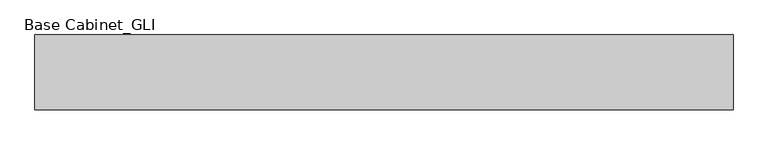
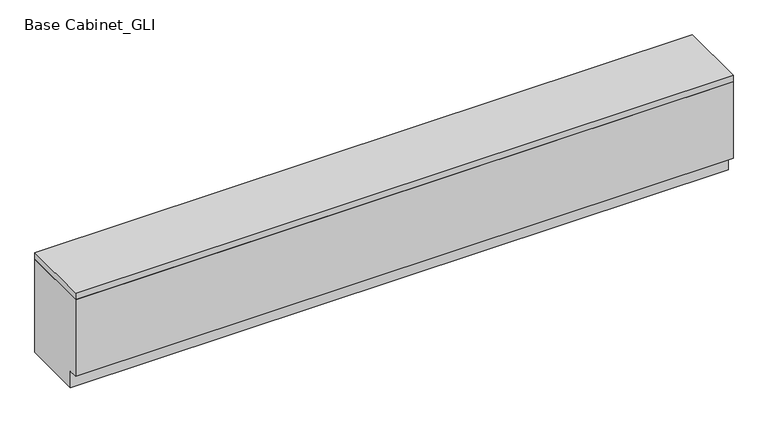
"""IFC4 building model written with IfcOpenShell, lengths in millimetres: proxy geometry, Base Cabinet_GLI : 900h x400d."""

import ifcopenshell
import ifcopenshell.guid

model = None  # the IFC model being written
_history = None  # IfcOwnerHistory: only IFC2X3 demands one
_inside = {}  # id of a spatial element -> (the spatial element, [elements in it])
_under = {}  # id of a project, library or spatial element -> (it, [spatial elements below it])
_declared = {}  # id of a project -> (the project, [libraries it declares])
_typed = {}  # id of a type object -> (the type object, [elements of that type])
_made_of = {}  # id of a material, layer set ... -> (it, [elements and type objects made of it])


def new_model(schema):
    """Start an empty IFC model of exactly this schema.

    Asked for "IFC4X3", IfcOpenShell would pick the latest addendum, in which some entities
    have other attributes; the version numbers below select the first issue.
    IFC2X3 requires an IfcOwnerHistory on every rooted entity: one is made here for all.
    """
    global model, _history
    if schema == "IFC4X3":
        model = ifcopenshell.file(schema_version=(4, 3, 0, 0))
    else:
        model = ifcopenshell.file(schema=schema)
    _inside.clear()
    _under.clear()
    _declared.clear()
    _typed.clear()
    _made_of.clear()
    _history = None
    if model.schema == "IFC2X3":
        org = make("IfcOrganization", Name="unknown")
        user = make(
            "IfcPersonAndOrganization",
            ThePerson=make("IfcPerson", FamilyName="unknown"),
            TheOrganization=org,
        )
        app = make(
            "IfcApplication",
            ApplicationDeveloper=org,
            Version="unknown",
            ApplicationFullName="unknown",
            ApplicationIdentifier="unknown",
        )
        _history = make(
            "IfcOwnerHistory",
            OwningUser=user,
            OwningApplication=app,
            ChangeAction="ADDED",
            CreationDate=0,
        )
    return model


def make(cls, **values):
    """One entity of the class cls with the attributes given. An attribute that is None is left unset."""
    return model.create_entity(
        cls, **{name: value for name, value in values.items() if value is not None}
    )


def rooted(cls, **values):
    """An entity with a GlobalId (a new one), such as an element, a storey or a relation."""
    return make(cls, GlobalId=ifcopenshell.guid.new(), OwnerHistory=_history, **values)


def si_unit(unit_type, name, prefix=None):
    """IfcSIUnit, for example si_unit("LENGTHUNIT", "METRE", prefix="MILLI")."""
    return make("IfcSIUnit", UnitType=unit_type, Prefix=prefix, Name=name)


def assignment(units):
    """IfcUnitAssignment: the units of a project."""
    return None if units is None else make("IfcUnitAssignment", Units=units)


def point(xyz):
    """IfcCartesianPoint."""
    return None if xyz is None else make("IfcCartesianPoint", Coordinates=xyz)


def direction(xyz):
    """IfcDirection."""
    return None if xyz is None else make("IfcDirection", DirectionRatios=xyz)


def frame(location, z_axis=None, x_axis=None):
    """IfcAxis2Placement3D, a coordinate frame: its origin and axes. An axis left out is left unset."""
    return make(
        "IfcAxis2Placement3D",
        Location=point(location),
        Axis=direction(z_axis),
        RefDirection=direction(x_axis),
    )


def origin():
    """The frame at (0, 0, 0) with its axes left unset."""
    return frame((0.0, 0.0, 0.0))


def place(relative_to, where):
    """IfcLocalPlacement: puts the frame where relative to a parent placement (None: the world)."""
    return make(
        "IfcLocalPlacement", PlacementRelTo=relative_to, RelativePlacement=where
    )


def context(
    kind, dimensions, precision=None, world=None, true_north=None, identifier=None
):
    """IfcGeometricRepresentationContext, for example the 3D "Model" context."""
    return make(
        "IfcGeometricRepresentationContext",
        ContextIdentifier=identifier,
        ContextType=kind,
        CoordinateSpaceDimension=dimensions,
        Precision=precision,
        WorldCoordinateSystem=world,
        TrueNorth=true_north,
    )


def project(units=None, contexts=None):
    """IfcProject with its units and contexts."""
    return rooted(
        "IfcProject",
        Name="project",
        RepresentationContexts=contexts,
        UnitsInContext=assignment(units),
    )


def spatial(cls, under=None, at=None, **own):
    """A site, building, storey or space (cls), placed at a placement, below another one or the project."""
    s = rooted(cls, ObjectPlacement=at, **own)
    if under is not None:
        _under.setdefault(under.id(), (under, []))[1].append(s)
    return s


def polyline(points):
    """IfcPolyline through the points."""
    return make("IfcPolyline", Points=[point(p) for p in points])


def outline(outer, holes=None, kind="AREA"):
    """IfcArbitraryClosedProfileDef: a profile drawn as a closed curve; with holes, ...WithVoids."""
    if holes is None:
        return make("IfcArbitraryClosedProfileDef", ProfileType=kind, OuterCurve=outer)
    return make(
        "IfcArbitraryProfileDefWithVoids",
        ProfileType=kind,
        OuterCurve=outer,
        InnerCurves=holes,
    )


def extrude(swept, where, along, depth):
    """IfcExtrudedAreaSolid: the profile swept, set in the frame where, extruded along a direction by depth."""
    return make(
        "IfcExtrudedAreaSolid",
        SweptArea=swept,
        Position=where,
        ExtrudedDirection=direction(along),
        Depth=depth,
    )


def shape(context_of_items, identifier, shape_type, items):
    """IfcShapeRepresentation: the items that make up one representation, for example the "Body"."""
    return make(
        "IfcShapeRepresentation",
        ContextOfItems=context_of_items,
        RepresentationIdentifier=identifier,
        RepresentationType=shape_type,
        Items=items,
    )


def source(mapping_origin, context_of_items, identifier, shape_type, items):
    """IfcRepresentationMap: a shape defined once, which mapped items show again and again."""
    return make(
        "IfcRepresentationMap",
        MappingOrigin=mapping_origin,
        MappedRepresentation=shape(context_of_items, identifier, shape_type, items),
    )


def transform(
    local_origin,
    x_axis=None,
    y_axis=None,
    z_axis=None,
    scale=None,
    scale2=None,
    scale3=None,
    uniform=True,
):
    """IfcCartesianTransformationOperator3D, or its non-uniform kind. x_axis, y_axis, z_axis: its Axis1, 2, 3."""
    if uniform:
        return make(
            "IfcCartesianTransformationOperator3D",
            Axis1=direction(x_axis),
            Axis2=direction(y_axis),
            LocalOrigin=point(local_origin),
            Scale=scale,
            Axis3=direction(z_axis),
        )
    return make(
        "IfcCartesianTransformationOperator3DnonUniform",
        Axis1=direction(x_axis),
        Axis2=direction(y_axis),
        LocalOrigin=point(local_origin),
        Scale=scale,
        Axis3=direction(z_axis),
        Scale2=scale2,
        Scale3=scale3,
    )


def mapped(mapping_source, mapping_target):
    """IfcMappedItem: shows the shape of a source again, moved by a transform."""
    return make(
        "IfcMappedItem", MappingSource=mapping_source, MappingTarget=mapping_target
    )


def made_of(thing, what):
    """Note that an element or type object is made of a material, layer set ...; save() writes the relation."""
    if what is not None:
        _made_of.setdefault(what.id(), (what, []))[1].append(thing)
    return thing


def element(
    cls,
    number,
    at=None,
    inside=None,
    cuts=None,
    type_object=None,
    material=None,
    context=None,
    identifier="Body",
    shape_type=None,
    held_by="IfcProductDefinitionShape",
    body=None,
    shapes=None,
    **own,
):
    """One element of the class cls, such as IfcWall. Its Tag is "e" and its number.

    at: its placement. inside: the storey or other place that contains it. cuts: it is an
    opening in that element (IfcRelVoidsElement). A single representation is given by context,
    identifier, shape_type and body (its items); several are given by shapes. held_by: the class
    of the entity that holds the representations. save() writes the other relations.
    """
    e = rooted(cls, Tag="e%d" % number, ObjectPlacement=at, **own)
    if body is not None:
        shapes = [shape(context, identifier, shape_type, body)]
    if shapes is not None:
        e.Representation = make(held_by, Representations=shapes)
    if inside is not None:
        _inside.setdefault(inside.id(), (inside, []))[1].append(e)
    if cuts is not None:
        rooted(
            "IfcRelVoidsElement", RelatingBuildingElement=cuts, RelatedOpeningElement=e
        )
    if type_object is not None:
        _typed.setdefault(type_object.id(), (type_object, []))[1].append(e)
    return made_of(e, material)


def aggregate(whole, parts):
    """IfcRelAggregates: a whole, such as a stair, and the parts it consists of."""
    return rooted("IfcRelAggregates", RelatingObject=whole, RelatedObjects=parts)


def save(model, path):
    """Write the relations noted so far, then the file.

    IfcRelAggregates (storeys below a building ...), IfcRelContainedInSpatialStructure (elements
    in a storey), IfcRelDefinesByType, IfcRelAssociatesMaterial and IfcRelDeclares: one each for
    every whole, place, type object, material and project.
    """
    for whole, parts in _under.values():
        aggregate(whole, parts)
    for where, things in _inside.values():
        rooted(
            "IfcRelContainedInSpatialStructure",
            RelatedElements=things,
            RelatingStructure=where,
        )
    for kind, things in _typed.values():
        rooted("IfcRelDefinesByType", RelatedObjects=things, RelatingType=kind)
    for what, things in _made_of.values():
        rooted("IfcRelAssociatesMaterial", RelatedObjects=things, RelatingMaterial=what)
    for by, libraries in _declared.values():
        rooted("IfcRelDeclares", RelatingContext=by, RelatedDefinitions=libraries)
    model.write(path)


def base_cabinet_gli_c4a7f111(model_context):
    return source(origin(), model_context, "Body", "SweptSolid", [
        extrude(outline(polyline([(-400.0, 100.0), (-400.0, 560.0), (0.0, 560.0), (0.0, 0.0), (-350.0, 0.0), (-350.0, 100.0), (-400.0, 100.0)])), frame((0.0, 0.0, 0.0), z_axis=(1.0, 0.0, 0.0), x_axis=(0.0, 1.0, 0.0)), (0.0, 0.0, 1.0), 3739.9676573),
        extrude(outline(polyline([(3739.9676573, 0.0), (3739.9676573, -400.0), (0.0, -400.0), (0.0, 0.0), (3739.9676573, 0.0)])), frame((0.0, 0.0, 560.0), z_axis=(0.0, 0.0, 1.0), x_axis=(1.0, 0.0, 0.0)), (0.0, 0.0, 1.0), 40.0),
    ])


if __name__ == "__main__":
    model = new_model("IFC4")
    model_context = context("Model", 3, world=origin())
    ifc_project = project(units=[si_unit("LENGTHUNIT", "METRE", prefix="MILLI")], contexts=[model_context])
    site = spatial("IfcSite", under=ifc_project)
    building = spatial("IfcBuilding", under=site)
    placement = place(None, origin())
    base_cabinet_gli_shape = base_cabinet_gli_c4a7f111(model_context)
    element("IfcBuildingElementProxy", 1, Name="Base Cabinet_GLI : 900h x400d", ObjectType="Base Cabinet_GLI : 900h x400d", at=placement, inside=building, context=model_context, shape_type="MappedRepresentation", body=[
        mapped(base_cabinet_gli_shape, transform((0.0, 0.0, 0.0), x_axis=(1.0, 0.0, 0.0), y_axis=(0.0, 1.0, 0.0), z_axis=(0.0, 0.0, 1.0))),
    ])
    save(model, "model.ifc")
